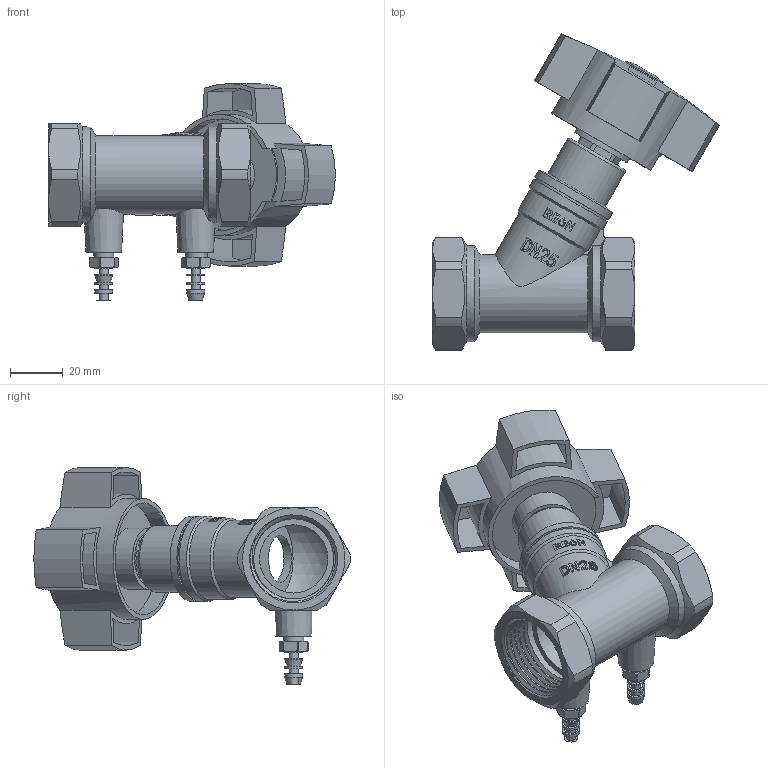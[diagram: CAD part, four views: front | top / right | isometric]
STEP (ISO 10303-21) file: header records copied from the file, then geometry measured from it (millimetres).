
FILE_DESCRIPTION(/* description */ ('STEP AP203'),/* implementation_level */ '2;1');
FILE_NAME(/* name */ 'RSV54-DN25.stp',/* time_stamp */ '2024-12-12T15:09:56+07:00',/* author */ ('Eva'),/* organization */ (''),/* preprocessor_version */ 'ST-DEVELOPER v20',/* originating_system */ 'Autodesk Inventor 2025',/* authorisation */ '');
FILE_SCHEMA (('AUTOMOTIVE_DESIGN { 1 0 10303 214 3 1 1 }'));
Length unit declared in the file: metre
Products named in the file (1): ZL-6602-1-00 Æ½ºâ·§
Bounding box: 109.17 x 120.4 x 82.55 mm (x, y, z)
Volume: 102277 mm3; surface area: 65249.8 mm2
Topology: 16 solids, 16 shells, 846 faces, 2177 edges, 1425 vertices
Faces by surface type: cylinder 315, plane 305, cone 102, bspline 95, sphere 15, torus 14
Full cylindrical faces by diameter (mm): 0.3 x2, 1.4 x2, 2 x2, 3.3 x2, 4 x2, 4.1 x5, 4.2 x8, 5 x14, 6 x1, 6.2 x2, 6.5 x1, 6.7 x8, 6.75 x6, 6.8 x8, 7 x1, 7.8 x2, 8 x10, 8.1 x1, 8.9 x2, 9.8 x2, 10 x3, 10.5 x21, 10.6 x1, 11 x1, 11.2 x1, 12 x26, 12.5 x1, 14 x1, 15 x1, 16.5 x1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
Entity records: 51366 total; most frequent: CARTESIAN_POINT 31756, ORIENTED_EDGE 4346, DIRECTION 3731, EDGE_CURVE 2173, AXIS2_PLACEMENT_3D 1432, VERTEX_POINT 1425, EDGE_LOOP 940, LINE 867
